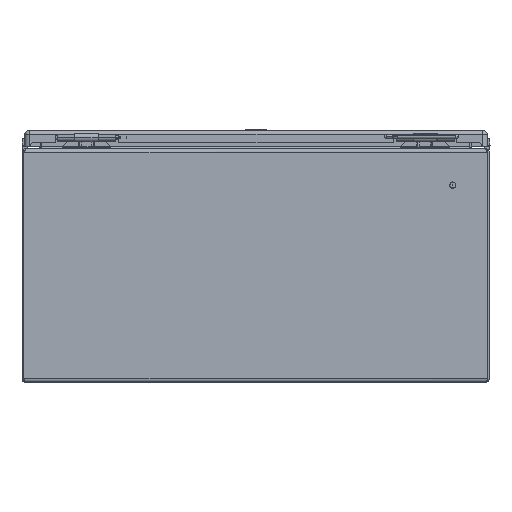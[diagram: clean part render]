
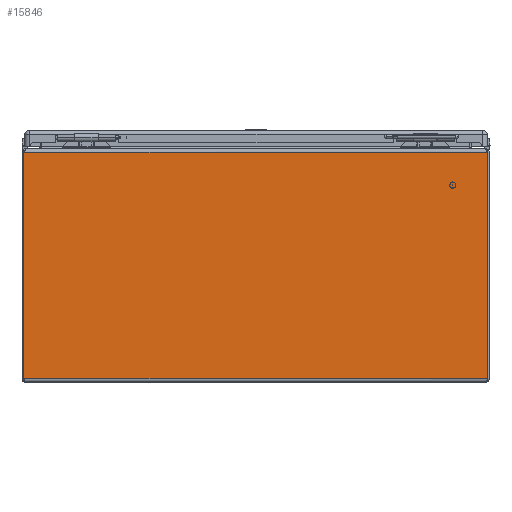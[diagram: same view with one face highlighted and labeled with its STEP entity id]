
A CAD part, left-side view. The second image highlights one B-rep face of the part: STEP entity #15846.
In plain terms, the highlighted planar face has unit normal (-1, 0, 0).
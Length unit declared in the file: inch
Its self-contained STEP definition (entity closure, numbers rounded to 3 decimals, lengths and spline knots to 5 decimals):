
#692 = VERTEX_POINT ( 'NONE', #44648 ) ;
#713 = VERTEX_POINT ( 'NONE', #44604 ) ;
#742 = VERTEX_POINT ( 'NONE', #44543 ) ;
#790 = VERTEX_POINT ( 'NONE', #44443 ) ;
#11025 = VECTOR ( 'NONE', #12866, 39.37008 ) ;
#11027 = LINE ( 'NONE', #13060, #11025 ) ;
#11031 = VECTOR ( 'NONE', #13006, 39.37008 ) ;
#11032 = VECTOR ( 'NONE', #13071, 39.37008 ) ;
#11033 = LINE ( 'NONE', #13080, #11032 ) ;
#11036 = LINE ( 'NONE', #13216, #11031 ) ;
#11103 = LINE ( 'NONE', #12762, #11106 ) ;
#11106 = VECTOR ( 'NONE', #12761, 39.37008 ) ;
#12761 = DIRECTION ( 'NONE',  ( 0., 1., 0. ) ) ;
#12762 = CARTESIAN_POINT ( 'NONE',  ( -10., -9.932, 9.859 ) ) ;
#12866 = DIRECTION ( 'NONE',  ( 0., 0., 1. ) ) ;
#13006 = DIRECTION ( 'NONE',  ( 0., 0., 1. ) ) ;
#13060 = CARTESIAN_POINT ( 'NONE',  ( -10., 9.932, 0.054 ) ) ;
#13071 = DIRECTION ( 'NONE',  ( 0., 1., 0. ) ) ;
#13080 = CARTESIAN_POINT ( 'NONE',  ( -10., 10., 0.141 ) ) ;
#13216 = CARTESIAN_POINT ( 'NONE',  ( -10., -9.932, 10. ) ) ;
#15846 = ADVANCED_FACE ( 'NONE', ( #25531 ), #35061, .F. ) ;
#20778 = AXIS2_PLACEMENT_3D ( 'NONE', #35073, #35053, #35051 ) ;
#25531 = FACE_OUTER_BOUND ( 'NONE', #43015, .T. ) ;
#32800 = EDGE_CURVE ( 'NONE', #692, #790, #11033, .T. ) ;
#32801 = EDGE_CURVE ( 'NONE', #692, #713, #11036, .T. ) ;
#32804 = EDGE_CURVE ( 'NONE', #790, #742, #11027, .T. ) ;
#32808 = EDGE_CURVE ( 'NONE', #713, #742, #11103, .T. ) ;
#35051 = DIRECTION ( 'NONE',  ( 0., 0., -1. ) ) ;
#35053 = DIRECTION ( 'NONE',  ( 1., 0., 0. ) ) ;
#35061 = PLANE ( 'NONE',  #20778 ) ;
#35073 = CARTESIAN_POINT ( 'NONE',  ( -10., 10., 10. ) ) ;
#42818 = ORIENTED_EDGE ( 'NONE', *, *, #32800, .F. ) ;
#42855 = ORIENTED_EDGE ( 'NONE', *, *, #32801, .T. ) ;
#42866 = ORIENTED_EDGE ( 'NONE', *, *, #32808, .T. ) ;
#42867 = ORIENTED_EDGE ( 'NONE', *, *, #32804, .F. ) ;
#43015 = EDGE_LOOP ( 'NONE', ( #42866, #42867, #42818, #42855 ) ) ;
#44443 = CARTESIAN_POINT ( 'NONE',  ( -10., 9.932, 0.141 ) ) ;
#44543 = CARTESIAN_POINT ( 'NONE',  ( -10., 9.932, 9.859 ) ) ;
#44604 = CARTESIAN_POINT ( 'NONE',  ( -10., -9.932, 9.859 ) ) ;
#44648 = CARTESIAN_POINT ( 'NONE',  ( -10., -9.932, 0.141 ) ) ;
